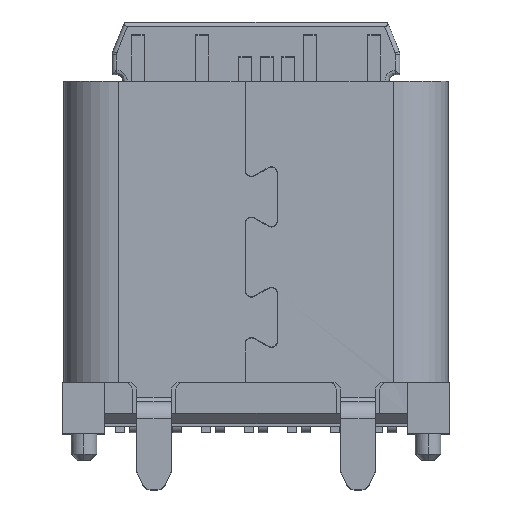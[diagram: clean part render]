
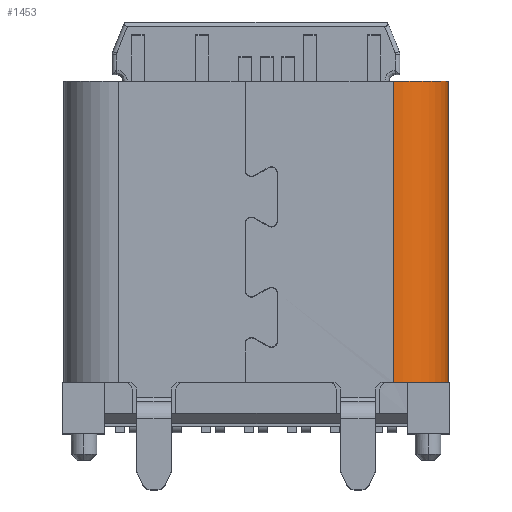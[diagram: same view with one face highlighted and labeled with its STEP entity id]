
A CAD part, top view. The second image highlights one B-rep face of the part: STEP entity #1453.
In plain terms, the highlighted cylindrical face has radius 1.28 mm (diameter 2.56 mm), a partial arc.
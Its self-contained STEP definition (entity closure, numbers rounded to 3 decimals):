
#1453 = ADVANCED_FACE ( 'NONE', ( #11012 ), #11007, .T. ) ;
#2768 = EDGE_CURVE ( 'NONE', #6443, #6259, #8045, .T. ) ;
#2769 = EDGE_CURVE ( 'NONE', #6444, #6443, #8038, .T. ) ;
#2770 = EDGE_CURVE ( 'NONE', #6444, #6269, #8034, .T. ) ;
#3665 = DIRECTION ( 'NONE',  ( 0., 1., 0. ) ) ;
#3669 = DIRECTION ( 'NONE',  ( 1., 0., 0. ) ) ;
#3674 = CARTESIAN_POINT ( 'NONE',  ( 7.501, 9.392, 3.219 ) ) ;
#4403 = AXIS2_PLACEMENT_3D ( 'NONE', #12771, #12772, #12773 ) ;
#4663 = EDGE_CURVE ( 'NONE', #6259, #6269, #10020, .T. ) ;
#6245 = EDGE_LOOP ( 'NONE', ( #12111, #12110, #12109, #12108 ) ) ;
#6259 = VERTEX_POINT ( 'NONE', #13275 ) ;
#6269 = VERTEX_POINT ( 'NONE', #13285 ) ;
#6391 = AXIS2_PLACEMENT_3D ( 'NONE', #15986, #15987, #15988 ) ;
#6443 = VERTEX_POINT ( 'NONE', #13307 ) ;
#6444 = VERTEX_POINT ( 'NONE', #13308 ) ;
#8032 = VECTOR ( 'NONE', #15982, 1000. ) ;
#8034 = LINE ( 'NONE', #15985, #8032 ) ;
#8035 = VECTOR ( 'NONE', #15984, 1000. ) ;
#8038 = CIRCLE ( 'NONE', #6391, 1.28 ) ;
#8045 = LINE ( 'NONE', #15975, #8035 ) ;
#10020 = CIRCLE ( 'NONE', #4403, 1.28 ) ;
#10317 = AXIS2_PLACEMENT_3D ( 'NONE', #3674, #3665, #3669 ) ;
#11007 = CYLINDRICAL_SURFACE ( 'NONE', #10317, 1.28 ) ;
#11012 = FACE_OUTER_BOUND ( 'NONE', #6245, .T. ) ;
#12108 = ORIENTED_EDGE ( 'NONE', *, *, #2770, .T. ) ;
#12109 = ORIENTED_EDGE ( 'NONE', *, *, #2769, .F. ) ;
#12110 = ORIENTED_EDGE ( 'NONE', *, *, #2768, .F. ) ;
#12111 = ORIENTED_EDGE ( 'NONE', *, *, #4663, .F. ) ;
#12771 = CARTESIAN_POINT ( 'NONE',  ( 7.501, 0.592, 3.219 ) ) ;
#12772 = DIRECTION ( 'NONE',  ( 0., -1., 0. ) ) ;
#12773 = DIRECTION ( 'NONE',  ( 0., 0., -1. ) ) ;
#13275 = CARTESIAN_POINT ( 'NONE',  ( 8.781, 0.592, 3.219 ) ) ;
#13285 = CARTESIAN_POINT ( 'NONE',  ( 7.504, 0.592, 4.503 ) ) ;
#13307 = CARTESIAN_POINT ( 'NONE',  ( 8.781, 7.592, 3.219 ) ) ;
#13308 = CARTESIAN_POINT ( 'NONE',  ( 7.501, 7.592, 4.499 ) ) ;
#15975 = CARTESIAN_POINT ( 'NONE',  ( 8.781, 9.392, 3.219 ) ) ;
#15982 = DIRECTION ( 'NONE',  ( 0., -1., 0. ) ) ;
#15984 = DIRECTION ( 'NONE',  ( 0., -1., 0. ) ) ;
#15985 = CARTESIAN_POINT ( 'NONE',  ( 7.501, 9.392, 4.499 ) ) ;
#15986 = CARTESIAN_POINT ( 'NONE',  ( 7.501, 7.592, 3.219 ) ) ;
#15987 = DIRECTION ( 'NONE',  ( 0., 1., 0. ) ) ;
#15988 = DIRECTION ( 'NONE',  ( 1., 0., 0. ) ) ;
